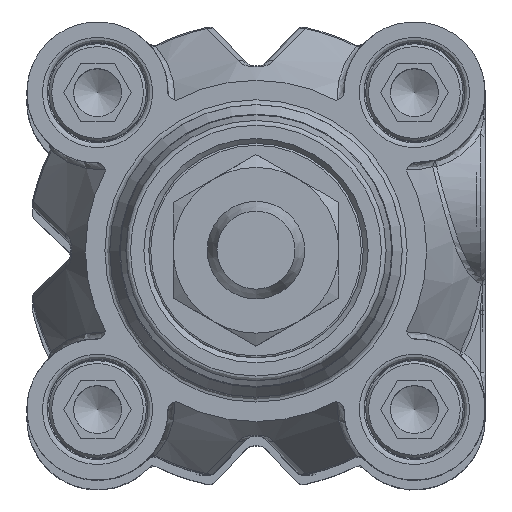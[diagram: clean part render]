
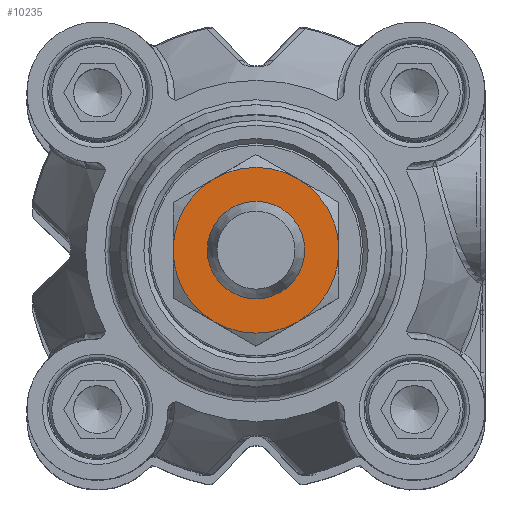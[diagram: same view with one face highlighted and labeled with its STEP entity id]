
A CAD part, top view. The second image highlights one B-rep face of the part: STEP entity #10235.
In plain terms, the highlighted planar face has unit normal (0, 0, 1) as drawn and (1, 0, 0) by its records, which use the part's own axes.
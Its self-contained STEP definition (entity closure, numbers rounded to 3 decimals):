
#3211=ORIENTED_EDGE('',*,*,#5762,.T.);
#3212=ORIENTED_EDGE('',*,*,#5754,.T.);
#3213=ORIENTED_EDGE('',*,*,#5751,.T.);
#3214=ORIENTED_EDGE('',*,*,#5750,.T.);
#3215=ORIENTED_EDGE('',*,*,#5752,.T.);
#3216=ORIENTED_EDGE('',*,*,#5753,.T.);
#3217=ORIENTED_EDGE('',*,*,#5755,.T.);
#5750=EDGE_CURVE('',#7112,#7122,#8000,.T.);
#5751=EDGE_CURVE('',#7108,#7112,#8001,.T.);
#5752=EDGE_CURVE('',#7122,#7119,#8002,.T.);
#5753=EDGE_CURVE('',#7119,#7115,#8003,.T.);
#5754=EDGE_CURVE('',#7102,#7108,#8004,.T.);
#5755=EDGE_CURVE('',#7115,#7102,#8005,.T.);
#5762=EDGE_CURVE('',#7123,#7123,#8012,.T.);
#7102=VERTEX_POINT('',#19066);
#7108=VERTEX_POINT('',#19087);
#7112=VERTEX_POINT('',#19105);
#7115=VERTEX_POINT('',#19124);
#7119=VERTEX_POINT('',#19142);
#7122=VERTEX_POINT('',#19159);
#7123=VERTEX_POINT('',#19189);
#8000=CIRCLE('',#14218,8.5);
#8001=CIRCLE('',#14220,8.5);
#8002=CIRCLE('',#14222,8.5);
#8003=CIRCLE('',#14224,8.5);
#8004=CIRCLE('',#14226,8.5);
#8005=CIRCLE('',#14228,8.5);
#8012=CIRCLE('',#14242,4.714);
#8568=EDGE_LOOP('',(#3211));
#8569=EDGE_LOOP('',(#3212,#3213,#3214,#3215,#3216,#3217));
#9295=FACE_BOUND('',#8568,.T.);
#9296=FACE_BOUND('',#8569,.T.);
#9895=PLANE('',#14241);
#10235=ADVANCED_FACE('',(#9295,#9296),#9895,.T.);
#14218=AXIS2_PLACEMENT_3D('',#19164,#16125,#16126);
#14220=AXIS2_PLACEMENT_3D('',#19166,#16129,#16130);
#14222=AXIS2_PLACEMENT_3D('',#19168,#16133,#16134);
#14224=AXIS2_PLACEMENT_3D('',#19170,#16137,#16138);
#14226=AXIS2_PLACEMENT_3D('',#19172,#16141,#16142);
#14228=AXIS2_PLACEMENT_3D('',#19174,#16145,#16146);
#14241=AXIS2_PLACEMENT_3D('',#19187,#16171,#16172);
#14242=AXIS2_PLACEMENT_3D('',#19188,#16173,#16174);
#16125=DIRECTION('',(1.,0.,0.));
#16126=DIRECTION('',(0.,1.,0.));
#16129=DIRECTION('',(1.,0.,0.));
#16130=DIRECTION('',(0.,1.,0.));
#16133=DIRECTION('',(1.,0.,0.));
#16134=DIRECTION('',(0.,1.,0.));
#16137=DIRECTION('',(1.,0.,0.));
#16138=DIRECTION('',(0.,1.,0.));
#16141=DIRECTION('',(1.,0.,0.));
#16142=DIRECTION('',(0.,1.,0.));
#16145=DIRECTION('',(1.,0.,0.));
#16146=DIRECTION('',(0.,1.,0.));
#16171=DIRECTION('',(1.,0.,0.));
#16172=DIRECTION('',(0.,0.,-1.));
#16173=DIRECTION('',(-1.,0.,0.));
#16174=DIRECTION('',(0.,-1.,0.));
#19066=CARTESIAN_POINT('',(6.,-7.361,-4.25));
#19087=CARTESIAN_POINT('',(6.,0.,-8.5));
#19105=CARTESIAN_POINT('',(6.,7.361,-4.25));
#19124=CARTESIAN_POINT('',(6.,-7.361,4.25));
#19142=CARTESIAN_POINT('',(6.,0.,8.5));
#19159=CARTESIAN_POINT('',(6.,7.361,4.25));
#19164=CARTESIAN_POINT('',(6.,0.,0.));
#19166=CARTESIAN_POINT('',(6.,0.,0.));
#19168=CARTESIAN_POINT('',(6.,0.,0.));
#19170=CARTESIAN_POINT('',(6.,0.,0.));
#19172=CARTESIAN_POINT('',(6.,0.,0.));
#19174=CARTESIAN_POINT('',(6.,0.,0.));
#19187=CARTESIAN_POINT('',(6.,0.,0.));
#19188=CARTESIAN_POINT('',(6.,0.,0.));
#19189=CARTESIAN_POINT('',(6.,-4.714,0.));
